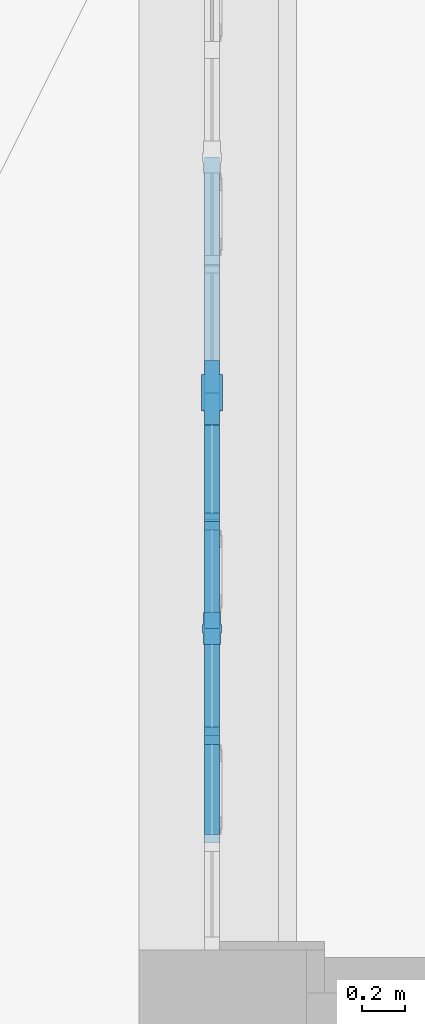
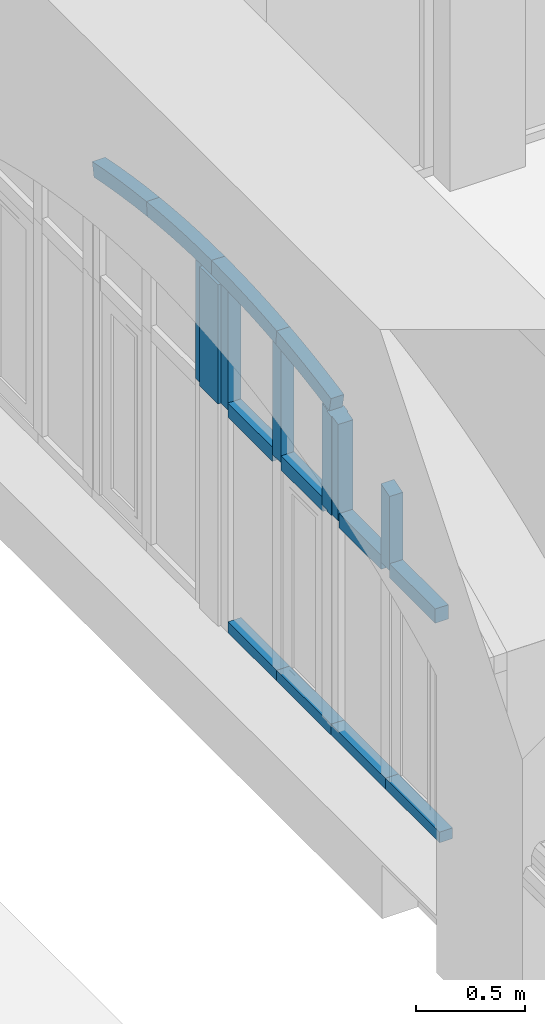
# One storey, part 22 of 88: 16 members, 1 element without a shape of its own.
"""IFC2X3 building model written with IfcOpenShell, lengths in millimetres."""

from ifc_helpers import new_model, entity, si_unit, converted_unit, derived_unit, direction, frame, frame_2d, origin, place, context, subcontext, project, spatial, polyline, circle_curve, parameter, trimmed, segment, composite_curve, rectangle, outline, extrude, faceted_brep, source, transform, mapped, material, type_object, type_shapes, element, aggregate, save


model = new_model("IFC2X3")

# Units and contexts
model_context = context("Model", 3, precision=0.01, world=origin(), true_north=direction((6.123031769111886e-17, 1.0)))
body_context = subcontext(model_context, "Body", "Model", "MODEL_VIEW")
ifc_project = project(units=[si_unit("LENGTHUNIT", "METRE", prefix="MILLI"), si_unit("AREAUNIT", "SQUARE_METRE"), si_unit("VOLUMEUNIT", "CUBIC_METRE"), converted_unit("PLANEANGLEUNIT", "DEGREE", entity("IfcPlaneAngleMeasure", 0.017453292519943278), si_unit("PLANEANGLEUNIT", "RADIAN"), dimensions=[0, 0, 0, 0, 0, 0, 0]), si_unit("MASSUNIT", "GRAM", prefix="KILO"), derived_unit("MASSDENSITYUNIT", [(si_unit("MASSUNIT", "GRAM", prefix="KILO"), 1), (si_unit("LENGTHUNIT", "METRE"), -3)]), derived_unit("IONCONCENTRATIONUNIT", [(si_unit("MASSUNIT", "GRAM", prefix="KILO"), 1), (si_unit("LENGTHUNIT", "METRE"), -3)]), derived_unit("MOMENTOFINERTIAUNIT", [(si_unit("LENGTHUNIT", "METRE"), 4)]), si_unit("TIMEUNIT", "SECOND"), si_unit("FREQUENCYUNIT", "HERTZ"), si_unit("THERMODYNAMICTEMPERATUREUNIT", "DEGREE_CELSIUS"), derived_unit("THERMALTRANSMITTANCEUNIT", [(si_unit("MASSUNIT", "GRAM", prefix="KILO"), 1), (si_unit("THERMODYNAMICTEMPERATUREUNIT", "KELVIN"), -1), (si_unit("TIMEUNIT", "SECOND"), -3)]), derived_unit("THERMALCONDUCTANCEUNIT", [(si_unit("MASSUNIT", "GRAM", prefix="KILO"), 1), (si_unit("THERMODYNAMICTEMPERATUREUNIT", "KELVIN"), -1), (si_unit("TIMEUNIT", "SECOND"), -3), (si_unit("LENGTHUNIT", "METRE"), 1)]), derived_unit("VOLUMETRICFLOWRATEUNIT", [(si_unit("LENGTHUNIT", "METRE", prefix="DECI"), 3), (si_unit("TIMEUNIT", "SECOND"), -1)]), derived_unit("MASSFLOWRATEUNIT", [(si_unit("MASSUNIT", "GRAM", prefix="KILO"), 1), (si_unit("TIMEUNIT", "SECOND"), -1)]), derived_unit("ROTATIONALFREQUENCYUNIT", [(si_unit("TIMEUNIT", "SECOND"), -1)]), si_unit("ELECTRICCURRENTUNIT", "AMPERE"), si_unit("ELECTRICVOLTAGEUNIT", "VOLT"), si_unit("POWERUNIT", "WATT"), si_unit("FORCEUNIT", "NEWTON", prefix="KILO"), si_unit("ILLUMINANCEUNIT", "LUX"), si_unit("LUMINOUSFLUXUNIT", "LUMEN"), si_unit("LUMINOUSINTENSITYUNIT", "CANDELA"), si_unit("ENERGYUNIT", "JOULE"), derived_unit("USERDEFINED", [(si_unit("MASSUNIT", "GRAM", prefix="KILO"), -1), (si_unit("LENGTHUNIT", "METRE"), -2), (si_unit("TIMEUNIT", "SECOND"), 3), (si_unit("LUMINOUSFLUXUNIT", "LUMEN"), 1)]), derived_unit("USERDEFINED", [(si_unit("MASSUNIT", "GRAM", prefix="KILO"), 1), (si_unit("TIMEUNIT", "SECOND"), -3), (si_unit("LENGTHUNIT", "METRE"), 3), (si_unit("ELECTRICCURRENTUNIT", "AMPERE"), -2)]), derived_unit("SOUNDPOWERUNIT", [(si_unit("MASSUNIT", "GRAM", prefix="KILO"), 1), (si_unit("TIMEUNIT", "SECOND"), -3), (si_unit("LENGTHUNIT", "METRE"), 2)]), derived_unit("SOUNDPRESSUREUNIT", [(si_unit("MASSUNIT", "GRAM", prefix="KILO"), 1), (si_unit("LENGTHUNIT", "METRE"), -1), (si_unit("TIMEUNIT", "SECOND"), -2)]), derived_unit("LINEARVELOCITYUNIT", [(si_unit("LENGTHUNIT", "METRE"), 1), (si_unit("TIMEUNIT", "SECOND"), -1)]), si_unit("PRESSUREUNIT", "PASCAL"), derived_unit("USERDEFINED", [(si_unit("MASSUNIT", "GRAM", prefix="KILO"), 1), (si_unit("LENGTHUNIT", "METRE"), -2), (si_unit("TIMEUNIT", "SECOND"), -2)]), derived_unit("LINEARFORCEUNIT", [(si_unit("MASSUNIT", "GRAM", prefix="KILO"), 1), (si_unit("TIMEUNIT", "SECOND"), -2)]), derived_unit("PLANARFORCEUNIT", [(si_unit("MASSUNIT", "GRAM", prefix="KILO"), 1), (si_unit("LENGTHUNIT", "METRE"), -1), (si_unit("TIMEUNIT", "SECOND"), -2)]), derived_unit("SPECIFICHEATCAPACITYUNIT", [(si_unit("THERMODYNAMICTEMPERATUREUNIT", "KELVIN"), -1), (si_unit("LENGTHUNIT", "METRE"), 2), (si_unit("TIMEUNIT", "SECOND"), -2)]), derived_unit("HEATFLUXDENSITYUNIT", [(si_unit("MASSUNIT", "GRAM", prefix="KILO"), 1), (si_unit("TIMEUNIT", "SECOND"), -3)]), derived_unit("HEATINGVALUEUNIT", [(si_unit("LENGTHUNIT", "METRE"), 2), (si_unit("TIMEUNIT", "SECOND"), -2)]), derived_unit("VAPORPERMEABILITYUNIT", [(si_unit("LENGTHUNIT", "METRE"), -1), (si_unit("TIMEUNIT", "SECOND"), 1)]), derived_unit("DYNAMICVISCOSITYUNIT", [(si_unit("MASSUNIT", "GRAM", prefix="KILO"), 1), (si_unit("TIMEUNIT", "SECOND"), -1), (si_unit("LENGTHUNIT", "METRE"), -1)]), derived_unit("THERMALEXPANSIONCOEFFICIENTUNIT", [(si_unit("THERMODYNAMICTEMPERATUREUNIT", "KELVIN"), -1)]), derived_unit("MODULUSOFELASTICITYUNIT", [(si_unit("MASSUNIT", "GRAM", prefix="KILO"), 1), (si_unit("LENGTHUNIT", "METRE"), -1), (si_unit("TIMEUNIT", "SECOND"), -2)]), derived_unit("ISOTHERMALMOISTURECAPACITYUNIT", [(si_unit("MASSUNIT", "GRAM", prefix="KILO"), -1), (si_unit("LENGTHUNIT", "METRE"), 3)]), derived_unit("MOISTUREDIFFUSIVITYUNIT", [(si_unit("TIMEUNIT", "SECOND"), -1), (si_unit("LENGTHUNIT", "METRE"), 2)]), derived_unit("MASSPERLENGTHUNIT", [(si_unit("MASSUNIT", "GRAM", prefix="KILO"), 1), (si_unit("LENGTHUNIT", "METRE"), -1)]), derived_unit("THERMALRESISTANCEUNIT", [(si_unit("MASSUNIT", "GRAM", prefix="KILO"), -1), (si_unit("TIMEUNIT", "SECOND"), 3), (si_unit("THERMODYNAMICTEMPERATUREUNIT", "KELVIN"), 1)]), derived_unit("ACCELERATIONUNIT", [(si_unit("LENGTHUNIT", "METRE"), 1), (si_unit("TIMEUNIT", "SECOND"), -2)]), derived_unit("ANGULARVELOCITYUNIT", [(si_unit("TIMEUNIT", "SECOND"), -1), (si_unit("PLANEANGLEUNIT", "RADIAN"), 1)]), derived_unit("LINEARSTIFFNESSUNIT", [(si_unit("MASSUNIT", "GRAM", prefix="KILO"), 1), (si_unit("TIMEUNIT", "SECOND"), -2)]), derived_unit("WARPINGCONSTANTUNIT", [(si_unit("LENGTHUNIT", "METRE"), 6)]), derived_unit("LINEARMOMENTUNIT", [(si_unit("MASSUNIT", "GRAM", prefix="KILO"), 1), (si_unit("LENGTHUNIT", "METRE"), 1), (si_unit("TIMEUNIT", "SECOND"), -2)]), derived_unit("TORQUEUNIT", [(si_unit("MASSUNIT", "GRAM", prefix="KILO"), 1), (si_unit("LENGTHUNIT", "METRE"), 2), (si_unit("TIMEUNIT", "SECOND"), -2)])], contexts=[model_context])

# Site, building, storey
site_placement = place(None, origin())
site = spatial("IfcSite", under=ifc_project, at=site_placement, Name="Default", CompositionType="ELEMENT")
building_placement = place(site_placement, origin())
building = spatial("IfcBuilding", under=site, at=building_placement, Name="Eesti Rahvusraamatukogu hoone renoveerimise projekteerimistööd", CompositionType="ELEMENT")
storey_placement = place(building_placement, origin())
storey = spatial("IfcBuildingStorey", under=building, at=storey_placement, Name="1. korrus", CompositionType="ELEMENT", Elevation=0.0)

# Curtain wall, members
curtain_wall_type = type_object("IfcCurtainWallType", Name="Curtain Wall:Ak-02", PredefinedType="NOTDEFINED")
curtain_wall_placement = place(storey_placement, origin())
curtain_wall = element("IfcCurtainWall", 1, at=curtain_wall_placement, inside=storey, type_object=curtain_wall_type, Name="Curtain Wall:Ak-02", ObjectType="Curtain Wall:Ak-02")
ifc_material = material(Name="LUMION_dark steel window frames")
member_type_1 = type_object("IfcMemberType", Name="Rectangular Mullion:NEW 80x70mm", PredefinedType="MULLION", material=ifc_material)
shared_shape_1 = source(origin(), body_context, "Body", "SweptSolid", [
    extrude(outline(composite_curve([segment(polyline([(-51.51245202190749, -250.9261639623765), (28.487547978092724, -250.92616396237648)]), True, "CONTINUOUS"), segment(trimmed(circle_curve(frame_2d((5469.203228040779, -250.92616396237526), x_axis=(-0.99579892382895, 0.0915669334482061)), 5440.715680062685), [parameter(3.5622212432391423e-13)], [parameter(5.2537580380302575)], True, "PARAMETER"), False, "CONTINUOUS"), segment(polyline([(51.344408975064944, 247.26348662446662), (-28.319504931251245, 254.58884130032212)]), True, "CONTINUOUS"), segment(trimmed(circle_curve(frame_2d((5469.203228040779, -250.92616396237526), x_axis=(-0.99579892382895, 0.0915669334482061)), 5520.715680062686), [parameter(3.5622212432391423e-13)], [parameter(5.2537580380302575)], True, "PARAMETER"), True, "CONTINUOUS")], self_intersect=False)), frame((-51.51245202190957, -35.0, -250.92616396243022), z_axis=(0.0, 1.0, 0.0), x_axis=(-0.995798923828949, 0.0, 0.09156693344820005)), (0.0, 0.0, 1.0), 70.00000000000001),
])
type_shapes(member_type_1, [shared_shape_1])
member_1_placement = place(curtain_wall_placement, frame((-36440.0, 9990.0, 3937.8704590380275), z_axis=(0.0, -0.9940766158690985, 0.10868156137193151), x_axis=(0.0, 0.10868156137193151, 0.9940766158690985)))
member_1 = element("IfcMember", 2, at=member_1_placement, type_object=member_type_1, material=ifc_material, Name="Rectangular Mullion:NEW 80x70mm", ObjectType="Rectangular Mullion:NEW 80x70mm", context=body_context, shape_type="MappedRepresentation", body=[
    mapped(shared_shape_1, transform((0.0, 0.0, 0.0), scale=1.0)),
])
member_type_2 = type_object("IfcMemberType", Name="Rectangular Mullion:NEW 80x70mm", PredefinedType="MULLION", material=ifc_material)
shared_shape_2 = source(origin(), body_context, "Body", "SweptSolid", [
    extrude(outline(composite_curve([segment(polyline([(-56.23219214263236, -297.82636877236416), (23.767807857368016, -297.82636877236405)]), True, "CONTINUOUS"), segment(trimmed(circle_curve(frame_2d((5464.483487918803, -297.82636877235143), x_axis=(-0.9940766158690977, 0.10868156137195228)), 5440.715680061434), [parameter(3.053332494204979e-13)], [parameter(6.2393189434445)], True, "PARAMETER"), False, "CONTINUOUS"), segment(polyline([(55.99525677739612, 293.47910631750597), (-23.53087249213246, 302.1736312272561)]), True, "CONTINUOUS"), segment(trimmed(circle_curve(frame_2d((5464.483487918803, -297.82636877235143), x_axis=(-0.9940766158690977, 0.10868156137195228)), 5520.715680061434), [parameter(3.5622212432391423e-13)], [parameter(6.2393189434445)], True, "PARAMETER"), True, "CONTINUOUS")], self_intersect=False)), frame((-56.23219214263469, -35.0, -297.82636877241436), z_axis=(0.0, 1.0, 0.0), x_axis=(-0.9940766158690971, 0.0, 0.10868156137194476)), (0.0, 0.0, 1.0), 69.99999999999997),
])
type_shapes(member_type_2, [shared_shape_2])
member_2_placement = place(curtain_wall_placement, frame((-36440.0, 8790.0, 3937.870459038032), z_axis=(0.0, -0.9940766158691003, -0.10868156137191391), x_axis=(0.0, -0.10868156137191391, 0.9940766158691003)))
member_2 = element("IfcMember", 3, at=member_2_placement, type_object=member_type_2, material=ifc_material, Name="Rectangular Mullion:NEW 80x70mm", ObjectType="Rectangular Mullion:NEW 80x70mm", context=body_context, shape_type="MappedRepresentation", body=[
    mapped(shared_shape_2, transform((0.0, 0.0, 0.0), scale=1.0)),
])
member_type_3 = type_object("IfcMemberType", Name="Rectangular Mullion:NEW 80x70mm", PredefinedType="MULLION", material=ifc_material)
shared_shape_3 = source(origin(), body_context, "Body", "SweptSolid", [
    extrude(outline(composite_curve([segment(polyline([(-51.51245202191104, -250.9261639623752), (28.487547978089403, -250.92616396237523)]), True, "CONTINUOUS"), segment(trimmed(circle_curve(frame_2d((5469.203228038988, -250.9261639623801), x_axis=(-0.9957989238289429, 0.09156693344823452)), 5440.715680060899), [parameter(3.5622212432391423e-13)], [parameter(5.253758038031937)], True, "PARAMETER"), False, "CONTINUOUS"), segment(polyline([(51.34440897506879, 247.26348662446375), (-28.319504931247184, 254.5888413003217)]), True, "CONTINUOUS"), segment(trimmed(circle_curve(frame_2d((5469.203228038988, -250.9261639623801), x_axis=(-0.9957989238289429, 0.09156693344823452)), 5520.715680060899), [parameter(3.5622212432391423e-13)], [parameter(5.253758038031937)], True, "PARAMETER"), True, "CONTINUOUS")], self_intersect=False)), frame((-51.512452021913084, -35.0, -250.926163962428), z_axis=(0.0, 1.0, 0.0), x_axis=(-0.9957989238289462, 0.0, 0.09156693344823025)), (0.0, 0.0, 1.0), 70.00000000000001),
])
type_shapes(member_type_3, [shared_shape_3])
member_3_placement = place(curtain_wall_placement, frame((-36440.0, 8290.0, 3859.874732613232), z_axis=(0.0, -0.9799487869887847, -0.19924952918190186), x_axis=(0.0, -0.19924952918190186, 0.9799487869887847)))
member_3 = element("IfcMember", 4, at=member_3_placement, type_object=member_type_3, material=ifc_material, Name="Rectangular Mullion:NEW 80x70mm", ObjectType="Rectangular Mullion:NEW 80x70mm", context=body_context, shape_type="MappedRepresentation", body=[
    mapped(shared_shape_3, transform((0.0, 0.0, 0.0), scale=1.0)),
])
member_type_4 = type_object("IfcMemberType", Name="Rectangular Mullion:NEW 80x70mm", PredefinedType="MULLION", material=ifc_material)
shared_shape_4 = source(origin(), body_context, "Body", "SweptSolid", [
    extrude(outline(composite_curve([segment(polyline([(-56.232192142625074, -297.82636877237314), (23.767807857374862, -297.82636877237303)]), True, "CONTINUOUS"), segment(trimmed(circle_curve(frame_2d((5464.483487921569, -297.8263687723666), x_axis=(-0.9940766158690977, 0.10868156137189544)), 5440.715680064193), [parameter(3.5622212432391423e-13)], [parameter(6.239318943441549)], True, "PARAMETER"), False, "CONTINUOUS"), segment(polyline([(55.99525677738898, 293.47910631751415), (-23.53087249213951, 302.1736312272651)]), True, "CONTINUOUS"), segment(trimmed(circle_curve(frame_2d((5464.483487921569, -297.8263687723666), x_axis=(-0.9940766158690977, 0.10868156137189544)), 5520.715680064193), [parameter(3.5622212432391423e-13)], [parameter(6.239318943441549)], True, "PARAMETER"), True, "CONTINUOUS")], self_intersect=False)), frame((-56.232192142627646, -35.0, -297.8263687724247), z_axis=(0.0, 1.0, 0.0), x_axis=(-0.9940766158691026, 0.0, 0.1086815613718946)), (0.0, 0.0, 1.0), 69.99999999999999),
])
type_shapes(member_type_4, [shared_shape_4])
member_4_placement = place(curtain_wall_placement, frame((-36440.0, 9390.0, 3970.5717786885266), z_axis=(0.0, -1.0, 0.0), x_axis=(0.0, 0.0, 1.0)))
member_4 = element("IfcMember", 5, at=member_4_placement, type_object=member_type_4, material=ifc_material, Name="Rectangular Mullion:NEW 80x70mm", ObjectType="Rectangular Mullion:NEW 80x70mm", context=body_context, shape_type="MappedRepresentation", body=[
    mapped(shared_shape_4, transform((0.0, 0.0, 0.0), scale=1.0)),
])
member_type_5 = type_object("IfcMemberType", Name="Rectangular Mullion:NEW 300x100mm", PredefinedType="MULLION", material=ifc_material)
shared_shape_5 = source(origin(), body_context, "Body", "Brep", [
    faceted_brep([(-85.0, -50.0, 0.0), (85.0, -50.0, 0.0), (85.0, -35.0, 0.0), (150.0, -35.0, 0.0), (150.0, 35.0, 0.0), (85.0, 35.0, 0.0), (85.0, 50.0, 0.0), (-85.0, 50.0, 0.0), (-85.0, 35.0, 0.0), (-150.0, 35.0, 0.0), (-150.0, -35.0, 0.0), (-85.0, -35.0, 0.0), (-85.0, 35.0, -669.9077630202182), (-117.50209737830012, 35.0, -669.3027955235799), (-150.0, 35.0, -668.5036429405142), (150.0, 35.0, -668.5036429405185), (117.50209737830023, 35.0, -669.3027955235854), (85.0, 35.0, -669.9077630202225), (-150.0, -35.0, -668.5036429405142), (-117.5020973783, -35.0, -669.3027955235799), (-85.0, -35.0, -669.9077630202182), (85.0, -35.0, -669.9077630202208), (117.50209737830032, -35.0, -669.3027955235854), (150.0, -35.0, -668.5036429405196), (-85.0, -50.0, -669.9077630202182), (-85.0, 50.0, -669.9077630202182), (-42.50064842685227, -50.0, -670.4057773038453), (0.0, -50.0, -670.5717786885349), (42.500648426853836, -50.0, -670.4057773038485), (85.0, -50.0, -669.9077630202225), (85.0, 50.0, -669.9077630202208), (42.500648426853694, 50.0, -670.4057773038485), (0.0, 50.0, -670.5717786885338), (-42.50064842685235, 50.0, -670.4057773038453)], [[[0, 1, 2, 3, 4, 5, 6, 7, 8, 9, 10, 11]], [[9, 8, 12, 13, 14]], [[5, 4, 15, 16, 17]], [[10, 9, 14, 18]], [[11, 10, 18, 19, 20]], [[3, 2, 21, 22, 23]], [[0, 11, 20, 24]], [[8, 7, 25, 12]], [[1, 0, 24, 26, 27, 28, 29]], [[2, 1, 29, 21]], [[6, 5, 17, 30]], [[4, 3, 23, 15]], [[7, 6, 30, 31, 32, 33, 25]], [[33, 32, 27, 26]], [[20, 12, 25, 33, 26, 24]], [[20, 19, 13, 12]], [[19, 18, 14, 13]], [[15, 23, 22, 16]], [[16, 22, 21, 17]], [[21, 29, 28, 31, 30, 17]], [[31, 28, 27, 32]]]),
])
type_shapes(member_type_5, [shared_shape_5])
member_5_placement = place(curtain_wall_placement, frame((-36440.0, 9390.0, 3220.0), z_axis=(0.0, 0.0, -1.0), x_axis=(0.0, -1.0, 0.0)))
member_5 = element("IfcMember", 6, at=member_5_placement, type_object=member_type_5, material=ifc_material, Name="Rectangular Mullion:NEW 300x100mm", ObjectType="Rectangular Mullion:NEW 300x100mm", context=body_context, shape_type="MappedRepresentation", body=[
    mapped(shared_shape_5, transform((0.0, 0.0, 0.0), scale=1.0)),
])
member_type_6 = type_object("IfcMemberType", Name="Rectangular Mullion:NEW 80x70mm", PredefinedType="MULLION", material=ifc_material)
shared_shape_6 = source(origin(), body_context, "Body", "SweptSolid", [
    extrude(outline(composite_curve([segment(polyline([(-382.56363634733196, -41.73890498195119), (250.23491165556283, -41.73890498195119)]), True, "CONTINUOUS"), segment(trimmed(circle_curve(frame_2d((-5152.707537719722, 598.2610950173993), x_axis=(0.9799487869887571, -0.19924952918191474)), 5440.715680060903), [parameter(4.737642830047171)], [parameter(5.253758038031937)], True, "PARAMETER"), True, "CONTINUOUS"), segment(trimmed(circle_curve(frame_2d((-5152.70753772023, 598.2610950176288), x_axis=(0.994076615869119, -0.10868156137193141)), 5440.715680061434), [parameter(0.0)], [parameter(0.33153708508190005)], True, "PARAMETER"), True, "CONTINUOUS"), segment(polyline([(259.11166761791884, 38.26109501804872), (-382.56363634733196, 38.26109501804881)]), True, "CONTINUOUS"), segment(polyline([(-382.56363634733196, 38.26109501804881), (-382.56363634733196, -41.73890498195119)]), True, "CONTINUOUS")], self_intersect=False)), frame((-1.7389049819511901, -35.0, -382.56363634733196), z_axis=(0.0, 1.0, 0.0), x_axis=(0.0, 0.0, -1.0)), (0.0, 0.0, 1.0), 70.00000000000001),
])
type_shapes(member_type_6, [shared_shape_6])
member_6_placement = place(curtain_wall_placement, frame((-36440.0, 8790.0, 3220.0), z_axis=(0.0, 0.0, -1.0), x_axis=(0.0, -1.0, 0.0)))
member_6 = element("IfcMember", 7, at=member_6_placement, type_object=member_type_6, material=ifc_material, Name="Rectangular Mullion:NEW 80x70mm", ObjectType="Rectangular Mullion:NEW 80x70mm", context=body_context, shape_type="MappedRepresentation", body=[
    mapped(shared_shape_6, transform((0.0, 0.0, 0.0), scale=1.0)),
])
member_type_7 = type_object("IfcMemberType", Name="Rectangular Mullion:NEW 150x90mm", PredefinedType="MULLION", material=ifc_material)
shared_shape_7 = source(origin(), body_context, "Body", "Brep", [
    faceted_brep([(-20.0, -40.0, 0.0), (-20.0, -45.0, 0.0), (20.0, -45.0, 0.0), (20.0, -40.0, 0.0), (75.0, -40.0, 0.0), (75.0, 40.0, 0.0), (20.0, 40.0, 0.0), (20.0, 45.0, 0.0), (-20.0, 45.0, 0.0), (-20.0, 40.0, 0.0), (-75.0, 40.0, 0.0), (-75.0, -40.0, 0.0), (-20.0, 40.0, -562.3027332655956), (-47.48603249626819, 40.0, -567.7959127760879), (-75.0, 40.0, -573.1474168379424), (75.0, 40.0, -542.1778237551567), (47.51534075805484, 40.0, -548.1824945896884), (20.0, 40.0, -554.044967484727), (-75.0, -40.0, -573.1474168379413), (-47.48603249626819, -40.0, -567.7959127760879), (-20.0, -40.0, -562.3027332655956), (20.0, -40.0, -554.0449674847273), (47.51534075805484, -40.0, -548.1824945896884), (75.0, -40.0, -542.1778237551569), (-20.0, -45.0, -562.3027332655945), (-20.0, 45.0, -562.3027332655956), (-17.969902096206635, -45.0, -561.891167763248), (-15.939962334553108, -45.0, -561.4788296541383), (2.036281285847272, -45.0, -557.7922042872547), (20.0, -45.0, -554.044967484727), (20.0, 45.0, -554.0449674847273), (2.0362812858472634, 45.0, -557.7922042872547), (-15.939962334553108, 45.0, -561.4788296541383), (-17.969902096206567, 45.0, -561.8911677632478), (-15.939962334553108, -33.75000000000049, -561.4788296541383), (-15.939962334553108, -22.50000000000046, -561.4788296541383), (-15.939962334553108, 33.7499999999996, -561.4788296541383), (-15.939962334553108, 22.49999999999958, -561.4788296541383), (-15.939962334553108, 0.0, -561.4788296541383)], [[[0, 1, 2, 3, 4, 5, 6, 7, 8, 9, 10, 11]], [[10, 9, 12, 13, 14]], [[6, 5, 15, 16, 17]], [[11, 10, 14, 18]], [[0, 11, 18, 19, 20]], [[4, 3, 21, 22, 23]], [[1, 0, 20, 24]], [[9, 8, 25, 12]], [[1, 24, 26, 27, 28, 29, 2]], [[3, 2, 29, 21]], [[7, 6, 17, 30]], [[5, 4, 23, 15]], [[7, 30, 31, 32, 33, 25, 8]], [[26, 20, 27]], [[34, 27, 20, 35]], [[12, 32, 36, 37]], [[12, 33, 32]], [[12, 25, 33]], [[20, 26, 24]], [[38, 35, 19, 13, 37]], [[19, 35, 20]], [[13, 19, 18, 14]], [[12, 37, 13]], [[15, 23, 22, 16]], [[16, 22, 21, 17]], [[21, 29, 28, 31, 30, 17]], [[31, 28, 27, 34, 35, 38, 37, 36, 32]]]),
])
type_shapes(member_type_7, [shared_shape_7])
member_7_placement = place(curtain_wall_placement, frame((-36440.0, 8290.0, 3220.0), z_axis=(0.0, 0.0, -1.0), x_axis=(0.0, -1.0, 0.0)))
member_7 = element("IfcMember", 8, at=member_7_placement, type_object=member_type_7, material=ifc_material, Name="Rectangular Mullion:NEW 150x90mm", ObjectType="Rectangular Mullion:NEW 150x90mm", context=body_context, shape_type="MappedRepresentation", body=[
    mapped(shared_shape_7, transform((0.0, 0.0, 0.0), scale=1.0)),
])
member_type_8 = type_object("IfcMemberType", Name="Rectangular Mullion:NEW 80x70mm", PredefinedType="MULLION", material=ifc_material)
shared_shape_8 = source(origin(), body_context, "Body", "SweptSolid", [
    extrude(outline(composite_curve([segment(polyline([(-259.341776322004, -44.637079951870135), (158.1715113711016, -44.637079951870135)]), True, "CONTINUOUS"), segment(trimmed(circle_curve(frame_2d((-5029.485677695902, 1595.362920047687), x_axis=(0.9248280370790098, -0.3803854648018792)), 5440.715680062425), [parameter(4.8139927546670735)], [parameter(5.510531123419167)], True, "PARAMETER"), True, "CONTINUOUS"), segment(trimmed(circle_curve(frame_2d((-5029.48567769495, 1595.3629200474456), x_axis=(0.9570819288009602, -0.28981749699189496)), 5440.715680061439), [parameter(0.0)], [parameter(0.18492371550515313)], True, "PARAMETER"), True, "CONTINUOUS"), segment(polyline([(182.78706183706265, 35.36292004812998), (-259.341776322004, 35.362920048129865)]), True, "CONTINUOUS"), segment(polyline([(-259.341776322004, 35.362920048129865), (-259.341776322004, -44.637079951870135)]), True, "CONTINUOUS")], self_intersect=False)), frame((-4.637079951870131, -35.0, -259.341776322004), z_axis=(0.0, 1.0, 0.0), x_axis=(0.0, 0.0, -1.0)), (0.0, 0.0, 1.0), 69.99999999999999),
])
type_shapes(member_type_8, [shared_shape_8])
member_8_placement = place(curtain_wall_placement, frame((-36440.0, 7790.0, 3220.0), z_axis=(0.0, 0.0, -1.0), x_axis=(0.0, -1.0, 0.0)))
member_8 = element("IfcMember", 9, at=member_8_placement, type_object=member_type_8, material=ifc_material, Name="Rectangular Mullion:NEW 80x70mm", ObjectType="Rectangular Mullion:NEW 80x70mm", context=body_context, shape_type="MappedRepresentation", body=[
    mapped(shared_shape_8, transform((0.0, 0.0, 0.0), scale=1.0)),
])
member_type_9 = type_object("IfcMemberType", Name="Rectangular Mullion:NEW 80x70mm", PredefinedType="MULLION", material=ifc_material)
shared_shape_9 = source(origin(), body_context, "Body", "SweptSolid", [
    extrude(rectangle(XDim=80.0, YDim=70.0, at=frame_2d((0.0, -3.552713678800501e-15), x_axis=(1.0, 0.0))), frame((0.0, 0.0, -420.0), z_axis=(0.0, 0.0, 1.0), x_axis=(-1.0, 0.0, 0.0)), (0.0, 0.0, 1.0), 419.999999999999),
])
type_shapes(member_type_9, [shared_shape_9])
member_9_placement = place(curtain_wall_placement, frame((-36440.0, 7330.0, 3220.0), z_axis=(0.0, -1.0, 0.0), x_axis=(0.0, 0.0, 1.0)))
member_9 = element("IfcMember", 10, at=member_9_placement, type_object=member_type_9, material=ifc_material, Name="Rectangular Mullion:NEW 80x70mm", ObjectType="Rectangular Mullion:NEW 80x70mm", context=body_context, shape_type="MappedRepresentation", body=[
    mapped(shared_shape_9, transform((0.0, 0.0, 0.0), scale=1.0)),
])
member_type_10 = type_object("IfcMemberType", Name="Rectangular Mullion:NEW 80x70mm", PredefinedType="MULLION", material=ifc_material)
shared_shape_10 = source(origin(), body_context, "Body", "SweptSolid", [
    extrude(rectangle(XDim=80.0, YDim=70.0, at=frame_2d((0.0, -3.552713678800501e-15), x_axis=(1.0, 0.0))), frame((0.0, 0.0, -385.0), z_axis=(0.0, 0.0, 1.0), x_axis=(-1.0, 0.0, 0.0)), (0.0, 0.0, 1.0), 384.99999999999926),
])
type_shapes(member_type_10, [shared_shape_10])
member_10_placement = place(curtain_wall_placement, frame((-36440.0, 8365.0, 3220.0), z_axis=(0.0, -1.0, 0.0), x_axis=(0.0, 0.0, 1.0)))
member_10 = element("IfcMember", 11, at=member_10_placement, type_object=member_type_10, material=ifc_material, Name="Rectangular Mullion:NEW 80x70mm", ObjectType="Rectangular Mullion:NEW 80x70mm", context=body_context, shape_type="MappedRepresentation", body=[
    mapped(shared_shape_10, transform((0.0, 0.0, 0.0), scale=1.0)),
])
member_11_placement = place(curtain_wall_placement, frame((-36440.0, 7830.0, 3220.0), z_axis=(0.0, -1.0, 0.0), x_axis=(0.0, 0.0, 1.0)))
member_11 = element("IfcMember", 12, at=member_11_placement, type_object=member_type_10, material=ifc_material, Name="Rectangular Mullion:NEW 80x70mm", ObjectType="Rectangular Mullion:NEW 80x70mm", context=body_context, shape_type="MappedRepresentation", body=[
    mapped(shared_shape_10, transform((0.0, 0.0, 0.0), scale=1.0)),
])
member_type_11 = type_object("IfcMemberType", Name="Rectangular Mullion:NEW 80x70mm", PredefinedType="MULLION", material=ifc_material)
shared_shape_11 = source(origin(), body_context, "Body", "SweptSolid", [
    extrude(rectangle(XDim=80.0, YDim=70.0, at=frame_2d((0.0, -3.552713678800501e-15), x_axis=(1.0, 0.0))), frame((0.0, 0.0, -410.0), z_axis=(0.0, 0.0, 1.0), x_axis=(-1.0, 0.0, 0.0)), (0.0, 0.0, 1.0), 409.9999999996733),
])
type_shapes(member_type_11, [shared_shape_11])
member_12_placement = place(curtain_wall_placement, frame((-36440.0, 8830.0, 3220.0), z_axis=(0.0, -1.0, 0.0), x_axis=(0.0, 0.0, 1.0)))
member_12 = element("IfcMember", 13, at=member_12_placement, type_object=member_type_11, material=ifc_material, Name="Rectangular Mullion:NEW 80x70mm", ObjectType="Rectangular Mullion:NEW 80x70mm", context=body_context, shape_type="MappedRepresentation", body=[
    mapped(shared_shape_11, transform((0.0, 0.0, 0.0), scale=1.0)),
])
member_type_12 = type_object("IfcMemberType", Name="Rectangular Mullion:NEW 60x70mm", PredefinedType="MULLION", material=ifc_material)
shared_shape_12 = source(origin(), body_context, "Body", "SweptSolid", [
    extrude(rectangle(XDim=60.0, YDim=70.0, at=frame_2d((0.0, 3.552713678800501e-15), x_axis=(1.0, 0.0))), frame((-30.0, 0.0, -500.0), z_axis=(0.0, 0.0, 1.0), x_axis=(-1.0, 0.0, 0.0)), (0.0, 0.0, 1.0), 499.999999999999),
])
type_shapes(member_type_12, [shared_shape_12])
member_13_placement = place(curtain_wall_placement, frame((-36440.0, 8790.0, 1970.0), z_axis=(0.0, 1.0, 0.0), x_axis=(0.0, 0.0, -1.0)))
member_13 = element("IfcMember", 14, at=member_13_placement, type_object=member_type_12, material=ifc_material, Name="Rectangular Mullion:NEW 60x70mm", ObjectType="Rectangular Mullion:NEW 60x70mm", context=body_context, shape_type="MappedRepresentation", body=[
    mapped(shared_shape_12, transform((0.0, 0.0, 0.0), scale=1.0)),
])
member_14_placement = place(curtain_wall_placement, frame((-36440.0, 8290.0, 1970.0), z_axis=(0.0, 1.0, 0.0), x_axis=(0.0, 0.0, -1.0)))
member_14 = element("IfcMember", 15, at=member_14_placement, type_object=member_type_12, material=ifc_material, Name="Rectangular Mullion:NEW 60x70mm", ObjectType="Rectangular Mullion:NEW 60x70mm", context=body_context, shape_type="MappedRepresentation", body=[
    mapped(shared_shape_12, transform((0.0, 0.0, 0.0), scale=1.0)),
])
member_15_placement = place(curtain_wall_placement, frame((-36440.0, 7790.0, 1970.0), z_axis=(0.0, 1.0, 0.0), x_axis=(0.0, 0.0, -1.0)))
member_15 = element("IfcMember", 16, at=member_15_placement, type_object=member_type_12, material=ifc_material, Name="Rectangular Mullion:NEW 60x70mm", ObjectType="Rectangular Mullion:NEW 60x70mm", context=body_context, shape_type="MappedRepresentation", body=[
    mapped(shared_shape_12, transform((0.0, 0.0, 0.0), scale=1.0)),
])
member_type_13 = type_object("IfcMemberType", Name="Rectangular Mullion:NEW 60x70mm", PredefinedType="MULLION", material=ifc_material)
shared_shape_13 = source(origin(), body_context, "Body", "SweptSolid", [
    extrude(rectangle(XDim=60.0, YDim=70.0, at=frame_2d((0.0, 3.552713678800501e-15), x_axis=(1.0, 0.0))), frame((-30.0, 0.0, -450.0), z_axis=(0.0, 0.0, 1.0), x_axis=(-1.0, 0.0, 0.0)), (0.0, 0.0, 1.0), 449.9999999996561),
])
type_shapes(member_type_13, [shared_shape_13])
member_16_placement = place(curtain_wall_placement, frame((-36440.0, 9240.0, 1970.0), z_axis=(0.0, 1.0, 0.0), x_axis=(0.0, 0.0, -1.0)))
member_16 = element("IfcMember", 17, at=member_16_placement, type_object=member_type_13, material=ifc_material, Name="Rectangular Mullion:NEW 60x70mm", ObjectType="Rectangular Mullion:NEW 60x70mm", context=body_context, shape_type="MappedRepresentation", body=[
    mapped(shared_shape_13, transform((0.0, 0.0, 0.0), scale=1.0)),
])
aggregate(curtain_wall, [member_1, member_2, member_3, member_4, member_5, member_6, member_7, member_8, member_10, member_11, member_9, member_12, member_13, member_14, member_15, member_16])

save(model, "model.ifc")
